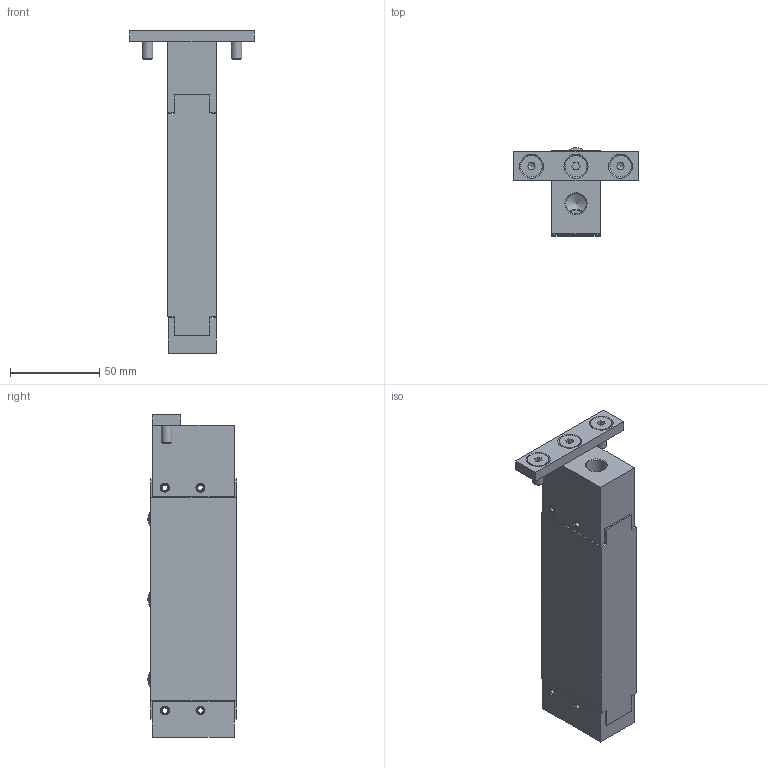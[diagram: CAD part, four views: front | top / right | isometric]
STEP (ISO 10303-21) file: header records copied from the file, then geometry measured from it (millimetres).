
FILE_DESCRIPTION(/* description */ ('DIE LIFTER'),/* implementation_level */ '2;1');
FILE_NAME(/* name */ 'S:\EASCN Vault\Designs\Standard Part\DIE LIFTERS\EHB\EHB- 3D step\EHB28 - 3D step complete serie\EHB28-3.stp',/* time_stamp */ '2019-11-26T12:59:06+08:00',/* author */ ('yue.yang'),/* organization */ (''),/* preprocessor_version */ 'ST-DEVELOPER v17',/* originating_system */ 'Autodesk Inventor 2019',/* authorisation */ '');
FILE_SCHEMA (('AUTOMOTIVE_DESIGN { 1 0 10303 214 3 1 1 }'));
Length unit declared in the file: millimetre
Products named in the file (2): EHB28-3; EHB28-3_Substitute_1
Assembly tree (1 placements, depth 2):
  EHB28-3
    EHB28-3_Substitute_1
Bounding box: 70 x 49.49 x 181 mm (x, y, z)
Volume: 203704.9 mm3; surface area: 55814.7 mm2
Topology: 6 solids, 6 shells, 236 faces, 668 edges, 452 vertices
Faces by surface type: plane 121, cylinder 59, cone 40, torus 13, sphere 3
Full cylindrical faces by diameter (mm): 3 x2, 5 x6, 5.5 x1, 6 x7, 6.5 x3, 6.647 x2, 7.5 x1, 10 x3, 11.445 x1, 12 x3, 16 x3, 20 x3, 21.5 x3, 24.05 x3, 24.2 x3
Entity records: 8644 total; most frequent: CARTESIAN_POINT 1995, DIRECTION 1346, ORIENTED_EDGE 1322, EDGE_CURVE 661, AXIS2_PLACEMENT_3D 520, VERTEX_POINT 452, LINE 306, VECTOR 306
